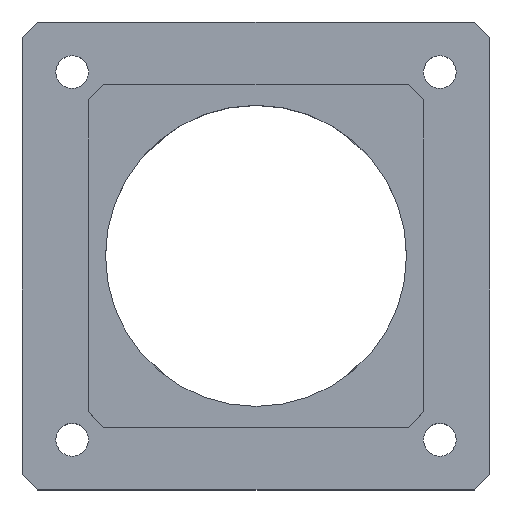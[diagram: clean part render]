
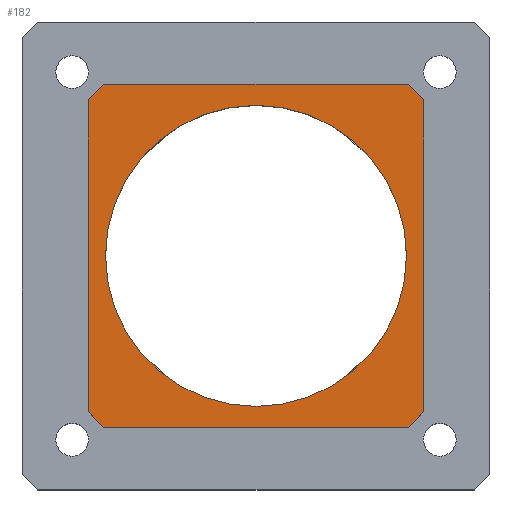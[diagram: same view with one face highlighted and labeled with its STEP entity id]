
A CAD part, top view. The second image highlights one B-rep face of the part: STEP entity #182.
In plain terms, the highlighted planar face has unit normal (0, 0, 1).
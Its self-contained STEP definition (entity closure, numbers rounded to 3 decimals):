
#15 = CARTESIAN_POINT ( 'NONE',  ( -20.75, 20.75, 15. ) ) ;
#26 = DIRECTION ( 'NONE',  ( -0.707, -0.707, 0. ) ) ;
#36 = EDGE_LOOP ( 'NONE', ( #1349, #1370, #445, #1656, #1331, #1120, #167, #527 ) ) ;
#45 = EDGE_LOOP ( 'NONE', ( #1602, #1080 ) ) ;
#103 = DIRECTION ( 'NONE',  ( 1., 0., 0. ) ) ;
#160 = CIRCLE ( 'NONE', #271, 19.3 ) ;
#165 = DIRECTION ( 'NONE',  ( -0.707, 0.707, 0. ) ) ;
#167 = ORIENTED_EDGE ( 'NONE', *, *, #1545, .T. ) ;
#174 = EDGE_CURVE ( 'NONE', #504, #1374, #980, .T. ) ;
#178 = CARTESIAN_POINT ( 'NONE',  ( 0., 0., 15. ) ) ;
#182 = ADVANCED_FACE ( 'NONE', ( #764, #1247 ), #747, .T. ) ;
#197 = VERTEX_POINT ( 'NONE', #1365 ) ;
#241 = AXIS2_PLACEMENT_3D ( 'NONE', #867, #986, #103 ) ;
#271 = AXIS2_PLACEMENT_3D ( 'NONE', #1451, #826, #1315 ) ;
#299 = DIRECTION ( 'NONE',  ( -1., 0., 0. ) ) ;
#376 = CIRCLE ( 'NONE', #1140, 19.3 ) ;
#445 = ORIENTED_EDGE ( 'NONE', *, *, #174, .T. ) ;
#449 = EDGE_CURVE ( 'NONE', #1410, #197, #1081, .T. ) ;
#458 = CARTESIAN_POINT ( 'NONE',  ( -21.5, -20., 15. ) ) ;
#504 = VERTEX_POINT ( 'NONE', #1654 ) ;
#525 = VECTOR ( 'NONE', #1055, 1000. ) ;
#527 = ORIENTED_EDGE ( 'NONE', *, *, #1109, .T. ) ;
#576 = VECTOR ( 'NONE', #26, 1000. ) ;
#600 = VECTOR ( 'NONE', #165, 1000. ) ;
#629 = CARTESIAN_POINT ( 'NONE',  ( 19.3, 0., 15. ) ) ;
#670 = CARTESIAN_POINT ( 'NONE',  ( 20.75, 20.75, 15. ) ) ;
#711 = LINE ( 'NONE', #1082, #1335 ) ;
#732 = DIRECTION ( 'NONE',  ( 0., -1., 0. ) ) ;
#735 = EDGE_CURVE ( 'NONE', #1429, #970, #376, .T. ) ;
#747 = PLANE ( 'NONE',  #241 ) ;
#763 = EDGE_CURVE ( 'NONE', #1045, #1406, #1086, .T. ) ;
#764 = FACE_OUTER_BOUND ( 'NONE', #36, .T. ) ;
#770 = CARTESIAN_POINT ( 'NONE',  ( 21.5, -20., 15. ) ) ;
#814 = LINE ( 'NONE', #670, #600 ) ;
#818 = VECTOR ( 'NONE', #299, 1000. ) ;
#826 = DIRECTION ( 'NONE',  ( 0., 0., 1. ) ) ;
#841 = LINE ( 'NONE', #1162, #525 ) ;
#867 = CARTESIAN_POINT ( 'NONE',  ( 0., 0., 15. ) ) ;
#879 = VERTEX_POINT ( 'NONE', #1112 ) ;
#940 = CARTESIAN_POINT ( 'NONE',  ( 19.5, 22., 15. ) ) ;
#953 = VERTEX_POINT ( 'NONE', #770 ) ;
#970 = VERTEX_POINT ( 'NONE', #629 ) ;
#980 = LINE ( 'NONE', #1492, #1585 ) ;
#986 = DIRECTION ( 'NONE',  ( 0., 0., 1. ) ) ;
#1005 = CARTESIAN_POINT ( 'NONE',  ( -19.3, 0., 15. ) ) ;
#1026 = LINE ( 'NONE', #1535, #1096 ) ;
#1045 = VERTEX_POINT ( 'NONE', #940 ) ;
#1055 = DIRECTION ( 'NONE',  ( 0.707, -0.707, 0. ) ) ;
#1074 = CARTESIAN_POINT ( 'NONE',  ( -21.5, -22., 15. ) ) ;
#1075 = EDGE_CURVE ( 'NONE', #970, #1429, #160, .T. ) ;
#1080 = ORIENTED_EDGE ( 'NONE', *, *, #1075, .F. ) ;
#1081 = LINE ( 'NONE', #1074, #1478 ) ;
#1082 = CARTESIAN_POINT ( 'NONE',  ( 20.75, -20.75, 15. ) ) ;
#1086 = LINE ( 'NONE', #1334, #818 ) ;
#1096 = VECTOR ( 'NONE', #1546, 1000. ) ;
#1109 = EDGE_CURVE ( 'NONE', #879, #1045, #814, .T. ) ;
#1112 = CARTESIAN_POINT ( 'NONE',  ( 21.5, 20., 15. ) ) ;
#1120 = ORIENTED_EDGE ( 'NONE', *, *, #1387, .T. ) ;
#1140 = AXIS2_PLACEMENT_3D ( 'NONE', #178, #1444, #1582 ) ;
#1162 = CARTESIAN_POINT ( 'NONE',  ( -20.75, -20.75, 15. ) ) ;
#1182 = LINE ( 'NONE', #15, #576 ) ;
#1247 = FACE_BOUND ( 'NONE', #45, .T. ) ;
#1290 = CARTESIAN_POINT ( 'NONE',  ( -19.5, -22., 15. ) ) ;
#1315 = DIRECTION ( 'NONE',  ( 1., 0., 0. ) ) ;
#1331 = ORIENTED_EDGE ( 'NONE', *, *, #449, .T. ) ;
#1334 = CARTESIAN_POINT ( 'NONE',  ( -21.5, 22., 15. ) ) ;
#1335 = VECTOR ( 'NONE', #1605, 1000. ) ;
#1349 = ORIENTED_EDGE ( 'NONE', *, *, #763, .T. ) ;
#1365 = CARTESIAN_POINT ( 'NONE',  ( 19.5, -22., 15. ) ) ;
#1370 = ORIENTED_EDGE ( 'NONE', *, *, #1604, .T. ) ;
#1374 = VERTEX_POINT ( 'NONE', #458 ) ;
#1387 = EDGE_CURVE ( 'NONE', #197, #953, #711, .T. ) ;
#1405 = CARTESIAN_POINT ( 'NONE',  ( -19.5, 22., 15. ) ) ;
#1406 = VERTEX_POINT ( 'NONE', #1405 ) ;
#1410 = VERTEX_POINT ( 'NONE', #1290 ) ;
#1429 = VERTEX_POINT ( 'NONE', #1005 ) ;
#1444 = DIRECTION ( 'NONE',  ( 0., 0., 1. ) ) ;
#1451 = CARTESIAN_POINT ( 'NONE',  ( 0., 0., 15. ) ) ;
#1478 = VECTOR ( 'NONE', #1595, 1000. ) ;
#1492 = CARTESIAN_POINT ( 'NONE',  ( -21.5, 22., 15. ) ) ;
#1535 = CARTESIAN_POINT ( 'NONE',  ( 21.5, 22., 15. ) ) ;
#1545 = EDGE_CURVE ( 'NONE', #953, #879, #1026, .T. ) ;
#1546 = DIRECTION ( 'NONE',  ( 0., 1., 0. ) ) ;
#1582 = DIRECTION ( 'NONE',  ( 1., 0., 0. ) ) ;
#1583 = EDGE_CURVE ( 'NONE', #1374, #1410, #841, .T. ) ;
#1585 = VECTOR ( 'NONE', #732, 1000. ) ;
#1595 = DIRECTION ( 'NONE',  ( 1., 0., 0. ) ) ;
#1602 = ORIENTED_EDGE ( 'NONE', *, *, #735, .F. ) ;
#1604 = EDGE_CURVE ( 'NONE', #1406, #504, #1182, .T. ) ;
#1605 = DIRECTION ( 'NONE',  ( 0.707, 0.707, 0. ) ) ;
#1654 = CARTESIAN_POINT ( 'NONE',  ( -21.5, 20., 15. ) ) ;
#1656 = ORIENTED_EDGE ( 'NONE', *, *, #1583, .T. ) ;
